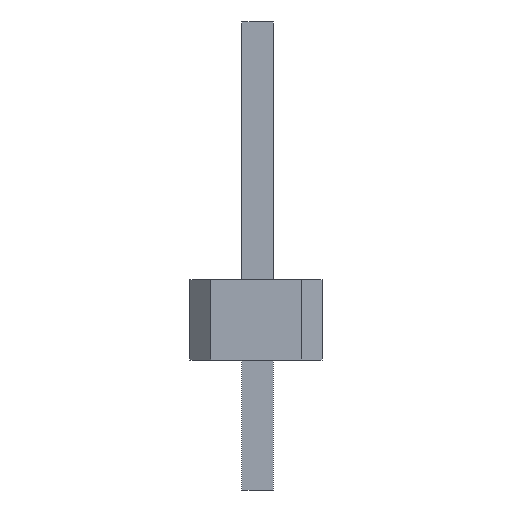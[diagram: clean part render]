
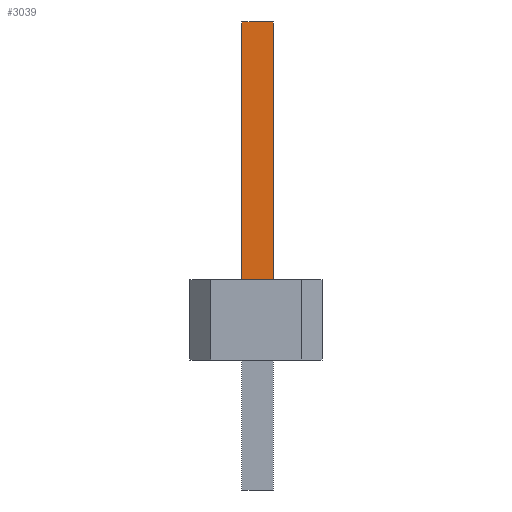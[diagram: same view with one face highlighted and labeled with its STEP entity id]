
A CAD part, front view. The second image highlights one B-rep face of the part: STEP entity #3039.
In plain terms, the highlighted planar face has unit normal (0, -1, 0).
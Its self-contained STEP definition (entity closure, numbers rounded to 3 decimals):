
#2975 = VERTEX_POINT('',#2976);
#2976 = CARTESIAN_POINT('',(-0.27,-0.27,1.54));
#2991 = VERTEX_POINT('',#2992);
#2992 = CARTESIAN_POINT('',(0.33,-0.27,1.54));
#2998 = EDGE_CURVE('',#2975,#2991,#2999,.T.);
#2999 = LINE('',#3000,#3001);
#3000 = CARTESIAN_POINT('',(-0.77,-0.27,1.54));
#3001 = VECTOR('',#3002,1.);
#3002 = DIRECTION('',(1.,0.,0.));
#3012 = EDGE_CURVE('',#2975,#3013,#3015,.T.);
#3013 = VERTEX_POINT('',#3014);
#3014 = CARTESIAN_POINT('',(-0.27,-0.27,6.5));
#3015 = LINE('',#3016,#3017);
#3016 = CARTESIAN_POINT('',(-0.27,-0.27,-2.5));
#3017 = VECTOR('',#3018,1.);
#3018 = DIRECTION('',(0.,0.,1.));
#3039 = ADVANCED_FACE('',(#3040),#3058,.F.);
#3040 = FACE_BOUND('',#3041,.F.);
#3041 = EDGE_LOOP('',(#3042,#3050,#3051,#3052));
#3042 = ORIENTED_EDGE('',*,*,#3043,.F.);
#3043 = EDGE_CURVE('',#2991,#3044,#3046,.T.);
#3044 = VERTEX_POINT('',#3045);
#3045 = CARTESIAN_POINT('',(0.33,-0.27,6.5));
#3046 = LINE('',#3047,#3048);
#3047 = CARTESIAN_POINT('',(0.33,-0.27,-2.5));
#3048 = VECTOR('',#3049,1.);
#3049 = DIRECTION('',(0.,0.,1.));
#3050 = ORIENTED_EDGE('',*,*,#2998,.F.);
#3051 = ORIENTED_EDGE('',*,*,#3012,.T.);
#3052 = ORIENTED_EDGE('',*,*,#3053,.T.);
#3053 = EDGE_CURVE('',#3013,#3044,#3054,.T.);
#3054 = LINE('',#3055,#3056);
#3055 = CARTESIAN_POINT('',(-0.27,-0.27,6.5));
#3056 = VECTOR('',#3057,1.);
#3057 = DIRECTION('',(1.,0.,0.));
#3058 = PLANE('',#3059);
#3059 = AXIS2_PLACEMENT_3D('',#3060,#3061,#3062);
#3060 = CARTESIAN_POINT('',(-0.27,-0.27,-2.5));
#3061 = DIRECTION('',(0.,1.,0.));
#3062 = DIRECTION('',(0.,-0.,1.));
